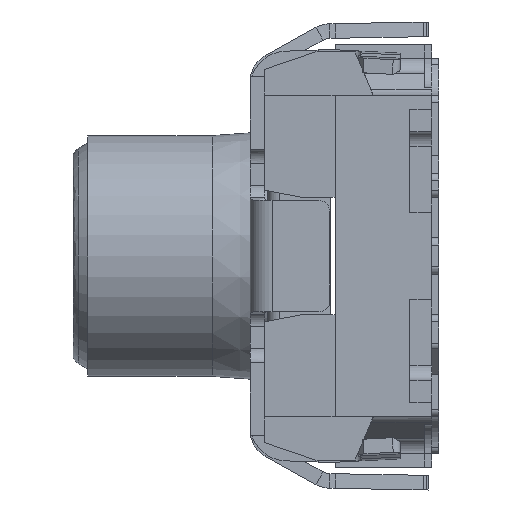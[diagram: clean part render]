
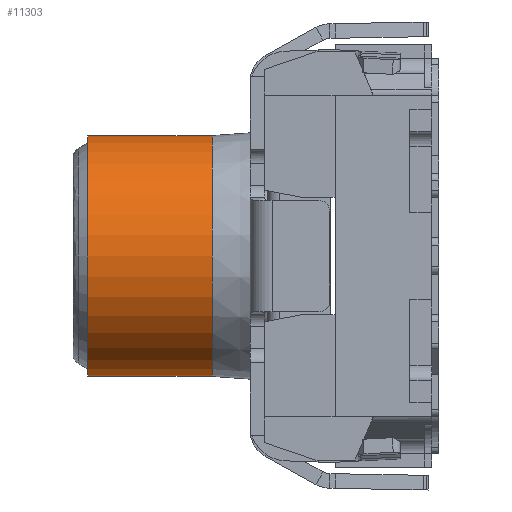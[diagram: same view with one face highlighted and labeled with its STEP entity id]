
A CAD part, left-side view. The second image highlights one B-rep face of the part: STEP entity #11303.
In plain terms, the highlighted cylindrical face has radius 0.824 mm (diameter 1.647 mm), a partial arc.
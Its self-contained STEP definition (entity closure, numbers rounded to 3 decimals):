
#662 = DIRECTION ( 'NONE',  ( 0., -1., 0. ) ) ;
#745 = DIRECTION ( 'NONE',  ( 0., 0., -1. ) ) ;
#2024 = CARTESIAN_POINT ( 'NONE',  ( -0.3, 1.5, 0. ) ) ;
#2109 = AXIS2_PLACEMENT_3D ( 'NONE', #2024, #16943, #4169 ) ;
#2705 = ORIENTED_EDGE ( 'NONE', *, *, #14177, .T. ) ;
#3359 = CARTESIAN_POINT ( 'NONE',  ( -0.3, 1.5, 0.824 ) ) ;
#3748 = AXIS2_PLACEMENT_3D ( 'NONE', #13510, #662, #745 ) ;
#4169 = DIRECTION ( 'NONE',  ( 0., 0., -1. ) ) ;
#5217 = AXIS2_PLACEMENT_3D ( 'NONE', #12414, #27302, #14574 ) ;
#5738 = VERTEX_POINT ( 'NONE', #9760 ) ;
#5990 = EDGE_CURVE ( 'NONE', #7791, #13538, #21787, .T. ) ;
#7637 = LINE ( 'NONE', #17734, #18978 ) ;
#7791 = VERTEX_POINT ( 'NONE', #3359 ) ;
#8411 = DIRECTION ( 'NONE',  ( 0., -1., 0. ) ) ;
#8633 = ORIENTED_EDGE ( 'NONE', *, *, #12446, .T. ) ;
#9760 = CARTESIAN_POINT ( 'NONE',  ( -0.3, 2.35, -0.824 ) ) ;
#10960 = CIRCLE ( 'NONE', #5217, 0.824 ) ;
#11303 = ADVANCED_FACE ( 'NONE', ( #22786 ), #20094, .T. ) ;
#12414 = CARTESIAN_POINT ( 'NONE',  ( -0.3, 2.35, 0. ) ) ;
#12446 = EDGE_CURVE ( 'NONE', #7791, #26200, #7637, .T. ) ;
#12823 = ORIENTED_EDGE ( 'NONE', *, *, #5990, .F. ) ;
#13510 = CARTESIAN_POINT ( 'NONE',  ( -0.3, 2.35, 0. ) ) ;
#13538 = VERTEX_POINT ( 'NONE', #18728 ) ;
#14177 = EDGE_CURVE ( 'NONE', #5738, #13538, #19315, .T. ) ;
#14574 = DIRECTION ( 'NONE',  ( 0., 0., -1. ) ) ;
#14892 = CARTESIAN_POINT ( 'NONE',  ( -0.3, 2.35, 0.824 ) ) ;
#16943 = DIRECTION ( 'NONE',  ( 0., -1., 0. ) ) ;
#17734 = CARTESIAN_POINT ( 'NONE',  ( -0.3, 2.35, 0.824 ) ) ;
#18676 = VECTOR ( 'NONE', #8411, 1000. ) ;
#18728 = CARTESIAN_POINT ( 'NONE',  ( -0.3, 1.5, -0.824 ) ) ;
#18978 = VECTOR ( 'NONE', #19876, 1000. ) ;
#19315 = LINE ( 'NONE', #21151, #18676 ) ;
#19620 = EDGE_CURVE ( 'NONE', #26200, #5738, #10960, .T. ) ;
#19756 = ORIENTED_EDGE ( 'NONE', *, *, #19620, .T. ) ;
#19876 = DIRECTION ( 'NONE',  ( 0., 1., 0. ) ) ;
#20094 = CYLINDRICAL_SURFACE ( 'NONE', #3748, 0.824 ) ;
#21151 = CARTESIAN_POINT ( 'NONE',  ( -0.3, 2.35, -0.824 ) ) ;
#21787 = CIRCLE ( 'NONE', #2109, 0.824 ) ;
#22786 = FACE_OUTER_BOUND ( 'NONE', #24549, .T. ) ;
#24549 = EDGE_LOOP ( 'NONE', ( #19756, #2705, #12823, #8633 ) ) ;
#26200 = VERTEX_POINT ( 'NONE', #14892 ) ;
#27302 = DIRECTION ( 'NONE',  ( 0., -1., 0. ) ) ;
